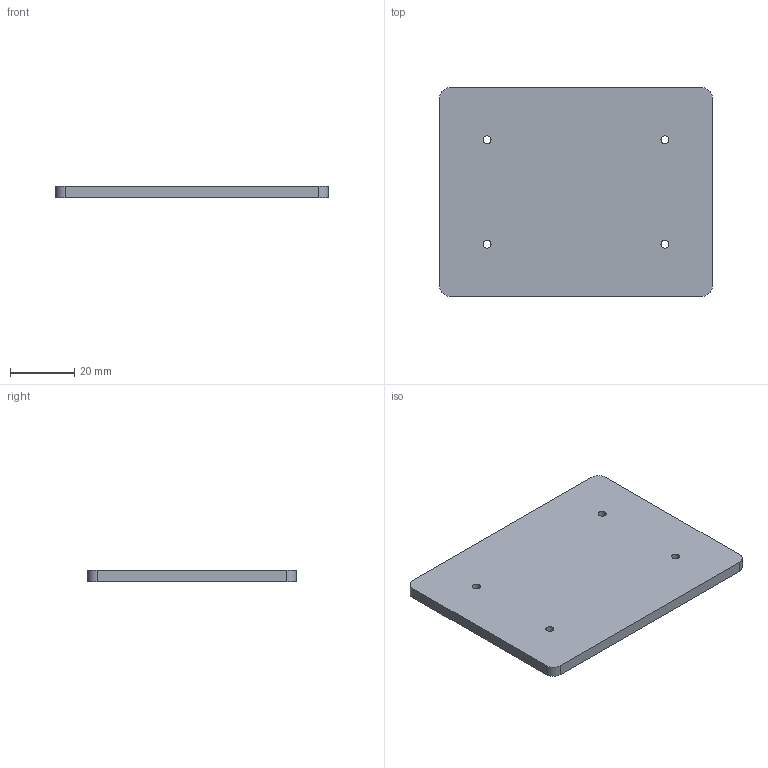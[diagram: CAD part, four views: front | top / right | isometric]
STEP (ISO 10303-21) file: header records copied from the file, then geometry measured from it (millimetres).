
FILE_DESCRIPTION(('Open CASCADE Model'),'2;1');
FILE_NAME('Open CASCADE Shape Model','2026-10-04T14:57:19',('Author'),( 'Open CASCADE'),'Open CASCADE STEP processor 7.8','Open CASCADE 7.8' ,'Unknown');
FILE_SCHEMA(('AUTOMOTIVE_DESIGN { 1 0 10303 214 1 1 1 1 }'));
Length unit declared in the file: millimetre
Products named in the file (1): Open CASCADE STEP translator 7.8 2
Bounding box: 85 x 65 x 3.5 mm (x, y, z)
Volume: 19241.7 mm3; surface area: 12137.2 mm2
Topology: 1 solids, 1 shells, 14 faces, 36 edges, 24 vertices
Faces by surface type: cylinder 8, plane 6
Full cylindrical faces by diameter (mm): 2.5 x4
Entity records: 942 total; most frequent: CARTESIAN_POINT 171, DIRECTION 150, LINE 76, VECTOR 76, ORIENTED_EDGE 72, PCURVE 72, DEFINITIONAL_REPRESENTATION 72, EDGE_CURVE 36
